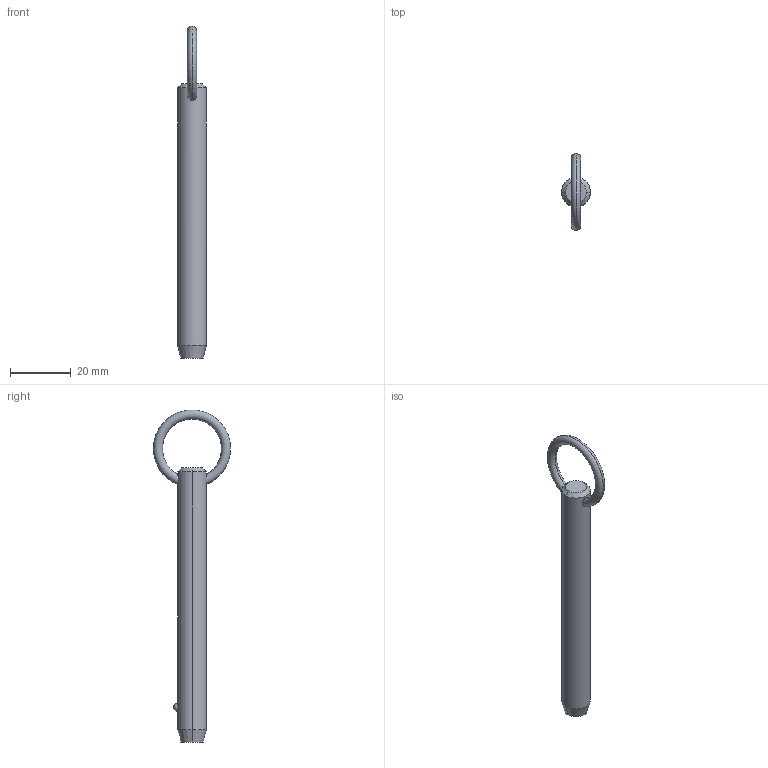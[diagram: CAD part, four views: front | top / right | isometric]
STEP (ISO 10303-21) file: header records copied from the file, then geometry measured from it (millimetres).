
FILE_DESCRIPTION (( 'STEP AP203' ), '1' );
FILE_NAME ('P1250.037-280.step', '2019-07-29T20:03:19', ( '' ), ( '' ), 'SwSTEP 2.0', 'SolidWorks 2017', '' );
FILE_SCHEMA (( 'CONFIG_CONTROL_DESIGN' ));
Length unit declared in the file: millimetre
Products named in the file (1): P1250.037-280
Bounding box: 9.52 x 25.39 x 109.2 mm (x, y, z)
Volume: 6768.1 mm3; surface area: 3338.4 mm2
Topology: 1 solids, 1 shells, 12 faces, 28 edges, 17 vertices
Faces by surface type: cone 4, torus 2, sphere 2, cylinder 2, plane 2
Entity records: 523 total; most frequent: CARTESIAN_POINT 190, DIRECTION 56, ORIENTED_EDGE 48, AXIS2_PLACEMENT_3D 25, EDGE_CURVE 24, EDGE_LOOP 15, VERTEX_POINT 15, CIRCLE 12
